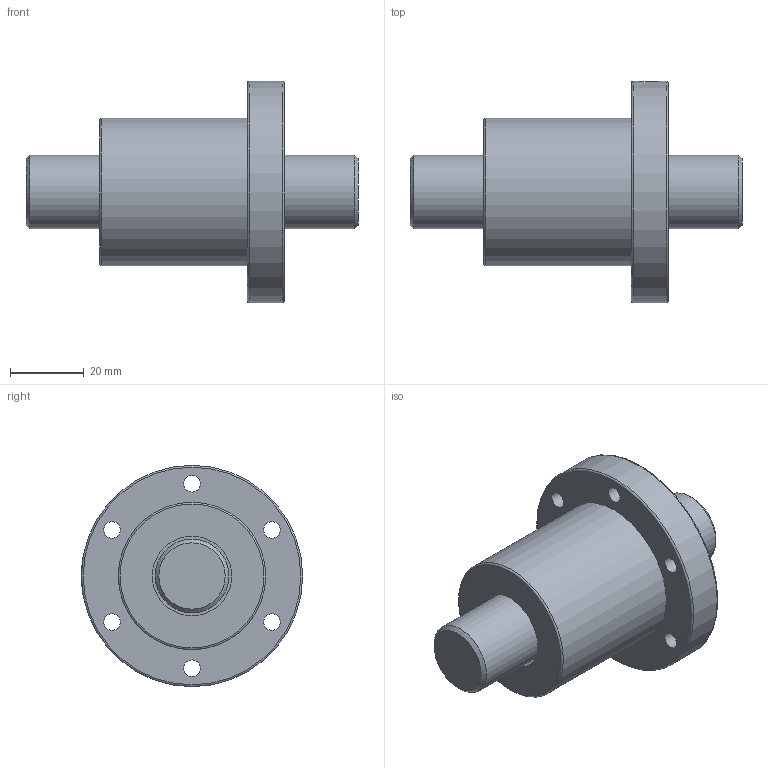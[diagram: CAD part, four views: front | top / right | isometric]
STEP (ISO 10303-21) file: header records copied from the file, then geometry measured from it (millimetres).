
FILE_DESCRIPTION(/* description */ ('Unknown','CAx-IF Rec.Pracs.---Representation and Presentation of Product Manufacturing Information (PMI)---4.0---2014-10-13','CAx-IF Rec.Pracs.---3D Tessellated Geometry---0.4---2014-09-14','2;1'),/* implementation_level */ '2;1');
FILE_NAME(/* name */ 'SFV02004-4.8',/* time_stamp */ '2020-12-08T10:01:35+08:00',/* author */ ('Unknown'),/* organization */ ('Unknown'),/* preprocessor_version */ 'ST-DEVELOPER v16.7',/* originating_system */ 'Solid Edge',/* authorisation */ 'Unknown');
FILE_SCHEMA (('AP242_MANAGED_MODEL_BASED_3D_ENGINEERING_MIM_LF { 1 0 10303 442 1 1 4 }'));
Length unit declared in the file: millimetre
Products named in the file (1): SFV02004-4.8
Bounding box: 90 x 60 x 60 mm (x, y, z)
Volume: 86576.4 mm3; surface area: 22029.8 mm2
Topology: 1 solids, 1 shells, 43 faces, 87 edges, 57 vertices
Faces by surface type: cylinder 21, plane 14, cone 3, torus 3, bspline 2
Full cylindrical faces by diameter (mm): 4 x1, 4.5 x6, 4.917 x1, 8 x6, 20 x2, 21.6 x1, 40 x1, 60 x1
Entity records: 3116 total; most frequent: CARTESIAN_POINT 2247, DIRECTION 180, ORIENTED_EDGE 110, EDGE_LOOP 91, FACE_BOUND 91, AXIS2_PLACEMENT_3D 91, EDGE_CURVE 55, VERTEX_POINT 50
